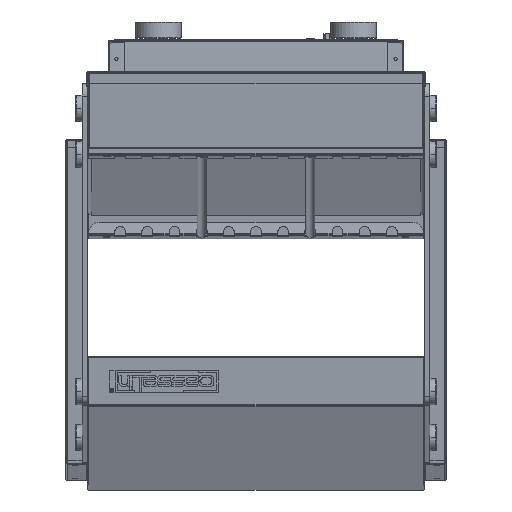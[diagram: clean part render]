
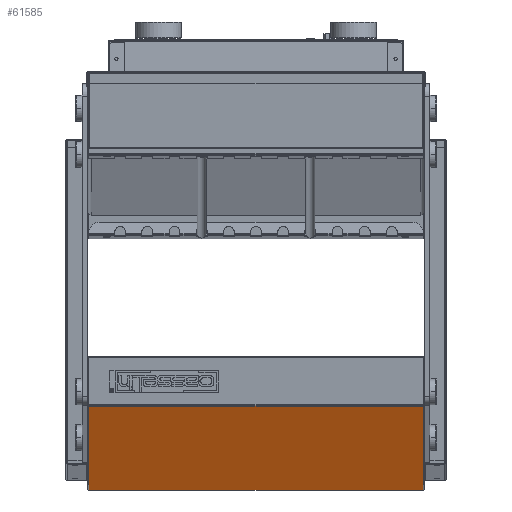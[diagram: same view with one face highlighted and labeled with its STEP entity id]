
A CAD part, front view. The second image highlights one B-rep face of the part: STEP entity #61585.
In plain terms, the highlighted planar face has unit normal (0, -0.122, -0.993).
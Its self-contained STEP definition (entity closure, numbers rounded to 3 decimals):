
#891 = EDGE_CURVE ( 'NONE', #92112, #56316, #28164, .T. ) ;
#906 = DIRECTION ( 'NONE',  ( -1., 0., 0. ) ) ;
#5014 = ORIENTED_EDGE ( 'NONE', *, *, #891, .T. ) ;
#8539 = LINE ( 'NONE', #114279, #107546 ) ;
#12227 = CARTESIAN_POINT ( 'NONE',  ( 153.8, 55.607, -361.63 ) ) ;
#13918 = CARTESIAN_POINT ( 'NONE',  ( -153.8, -573.198, -284.422 ) ) ;
#15902 = ORIENTED_EDGE ( 'NONE', *, *, #42522, .T. ) ;
#16842 = VECTOR ( 'NONE', #21661, 1000. ) ;
#18999 = PLANE ( 'NONE',  #55197 ) ;
#21661 = DIRECTION ( 'NONE',  ( -1., 0., 0. ) ) ;
#25970 = VERTEX_POINT ( 'NONE', #12227 ) ;
#26780 = ORIENTED_EDGE ( 'NONE', *, *, #45344, .T. ) ;
#28164 = LINE ( 'NONE', #100585, #16842 ) ;
#28353 = FACE_OUTER_BOUND ( 'NONE', #72522, .T. ) ;
#31039 = DIRECTION ( 'NONE',  ( 0., 0.993, -0.122 ) ) ;
#42522 = EDGE_CURVE ( 'NONE', #62920, #25970, #46962, .T. ) ;
#45276 = CARTESIAN_POINT ( 'NONE',  ( -155., -574.128, -284.308 ) ) ;
#45344 = EDGE_CURVE ( 'NONE', #25970, #92112, #8539, .T. ) ;
#46962 = LINE ( 'NONE', #108342, #60927 ) ;
#48587 = LINE ( 'NONE', #83602, #108679 ) ;
#53232 = ORIENTED_EDGE ( 'NONE', *, *, #86095, .T. ) ;
#55197 = AXIS2_PLACEMENT_3D ( 'NONE', #45276, #82057, #906 ) ;
#56316 = VERTEX_POINT ( 'NONE', #13918 ) ;
#60927 = VECTOR ( 'NONE', #81418, 1000. ) ;
#61585 = ADVANCED_FACE ( 'NONE', ( #28353 ), #18999, .T. ) ;
#62920 = VERTEX_POINT ( 'NONE', #68100 ) ;
#68100 = CARTESIAN_POINT ( 'NONE',  ( -153.8, 55.607, -361.63 ) ) ;
#72522 = EDGE_LOOP ( 'NONE', ( #5014, #53232, #15902, #26780 ) ) ;
#81418 = DIRECTION ( 'NONE',  ( 1., 0., 0. ) ) ;
#82057 = DIRECTION ( 'NONE',  ( 0., -0.122, -0.993 ) ) ;
#83602 = CARTESIAN_POINT ( 'NONE',  ( -153.8, -573.198, -284.422 ) ) ;
#86095 = EDGE_CURVE ( 'NONE', #56316, #62920, #48587, .T. ) ;
#87419 = DIRECTION ( 'NONE',  ( 0., -0.993, 0.122 ) ) ;
#92112 = VERTEX_POINT ( 'NONE', #92926 ) ;
#92926 = CARTESIAN_POINT ( 'NONE',  ( 153.8, -573.198, -284.422 ) ) ;
#100585 = CARTESIAN_POINT ( 'NONE',  ( 153.8, -573.198, -284.422 ) ) ;
#107546 = VECTOR ( 'NONE', #87419, 1000. ) ;
#108342 = CARTESIAN_POINT ( 'NONE',  ( -153.8, 55.607, -361.63 ) ) ;
#108679 = VECTOR ( 'NONE', #31039, 1000. ) ;
#114279 = CARTESIAN_POINT ( 'NONE',  ( 153.8, 55.607, -361.63 ) ) ;
